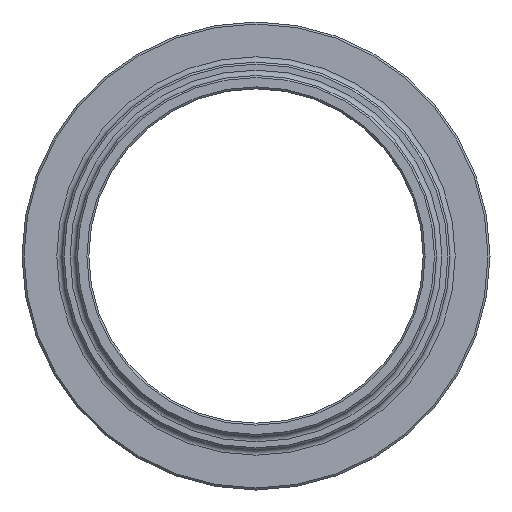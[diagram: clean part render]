
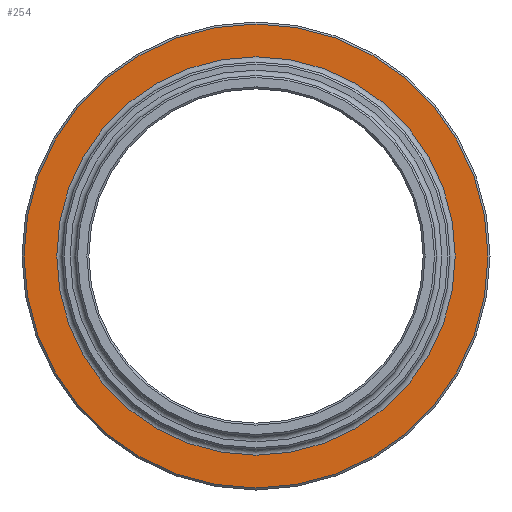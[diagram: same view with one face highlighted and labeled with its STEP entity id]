
A CAD part, left-side view. The second image highlights one B-rep face of the part: STEP entity #254.
In plain terms, the highlighted planar face has unit normal (-1, 0, 0).
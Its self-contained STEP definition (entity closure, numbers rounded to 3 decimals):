
#22=FACE_BOUND('',#76,.T.);
#26=PLANE('',#303);
#58=FACE_OUTER_BOUND('',#75,.T.);
#75=EDGE_LOOP('',(#199));
#76=EDGE_LOOP('',(#200));
#98=CIRCLE('',#298,29.8);
#102=CIRCLE('',#304,34.7);
#123=VERTEX_POINT('',#445);
#126=VERTEX_POINT('',#456);
#149=EDGE_CURVE('',#123,#123,#98,.T.);
#154=EDGE_CURVE('',#126,#126,#102,.T.);
#199=ORIENTED_EDGE('',*,*,#154,.F.);
#200=ORIENTED_EDGE('',*,*,#149,.F.);
#254=ADVANCED_FACE('',(#58,#22),#26,.T.);
#298=AXIS2_PLACEMENT_3D('',#447,#356,#357);
#303=AXIS2_PLACEMENT_3D('',#455,#367,#368);
#304=AXIS2_PLACEMENT_3D('',#457,#369,#370);
#356=DIRECTION('center_axis',(-1.,0.,0.));
#357=DIRECTION('ref_axis',(0.,-1.,0.));
#367=DIRECTION('center_axis',(-1.,0.,0.));
#368=DIRECTION('ref_axis',(0.,0.,1.));
#369=DIRECTION('center_axis',(1.,0.,0.));
#370=DIRECTION('ref_axis',(0.,-1.,0.));
#445=CARTESIAN_POINT('',(-2.5,0.,29.8));
#447=CARTESIAN_POINT('Origin',(-2.5,0.,0.));
#455=CARTESIAN_POINT('Origin',(-2.5,35.,0.));
#456=CARTESIAN_POINT('',(-2.5,34.7,0.));
#457=CARTESIAN_POINT('Origin',(-2.5,0.,0.));
